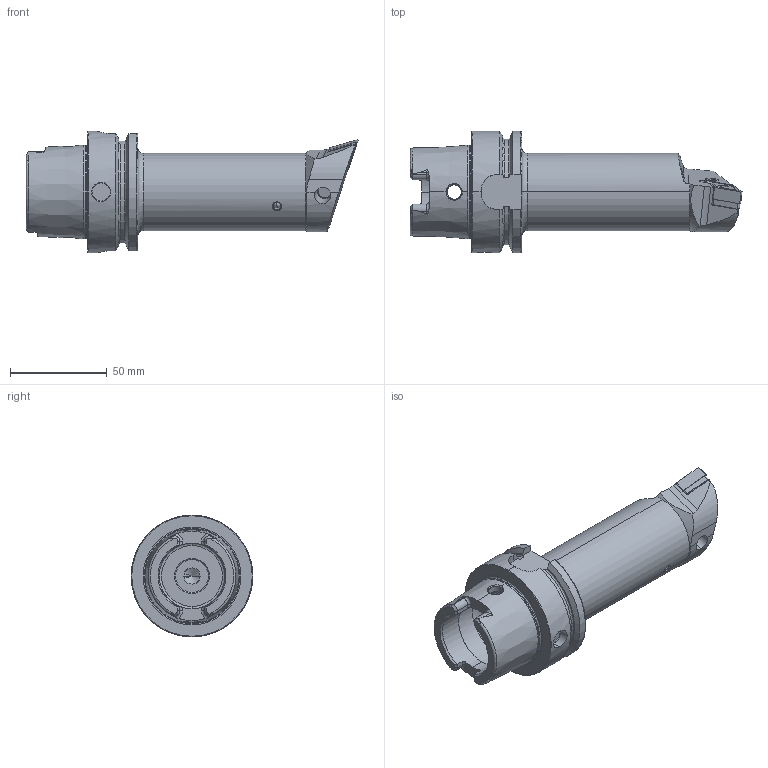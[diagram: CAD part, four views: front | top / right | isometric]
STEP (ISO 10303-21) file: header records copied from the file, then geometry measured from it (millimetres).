
FILE_DESCRIPTION (( 'STEP AP214' ), '1' );
FILE_NAME ('HA6.PDF.LQC.140.STEP', '2020-09-11T06:40:06', ( '' ), ( '' ), 'SwSTEP 2.0', 'SolidWorks 2017', '' );
FILE_SCHEMA (( 'AUTOMOTIVE_DESIGN' ));
Length unit declared in the file: millimetre
Products named in the file (8): DNMG150604; WDF-ER3.101.000_A; HA6.PDF.LQC.140; WCD-ER1.101.000; WCD-ER4.101.017_A; HA6-PDF.LQC.140_B; KVT_MB_600_050; WDF-ER2.101.003_A
Assembly tree (7 placements, depth 2):
  HA6.PDF.LQC.140
    HA6-PDF.LQC.140_B
    KVT_MB_600_050
    WDF-ER3.101.000_A
    WCD-ER4.101.017_A
    WCD-ER1.101.000
    WDF-ER2.101.003_A
    DNMG150604
Bounding box: 171.9 x 63 x 63 mm (x, y, z)
Volume: 201755.3 mm3; surface area: 41605 mm2
Topology: 8 solids, 8 shells, 369 faces, 941 edges, 576 vertices
Faces by surface type: plane 118, cylinder 102, cone 91, torus 40, bspline 16, sphere 2
Entity records: 14280 total; most frequent: CARTESIAN_POINT 4208, ORIENTED_EDGE 1848, DIRECTION 1743, EDGE_CURVE 924, AXIS2_PLACEMENT_3D 676, VERTEX_POINT 573, VECTOR 391, LINE 391
